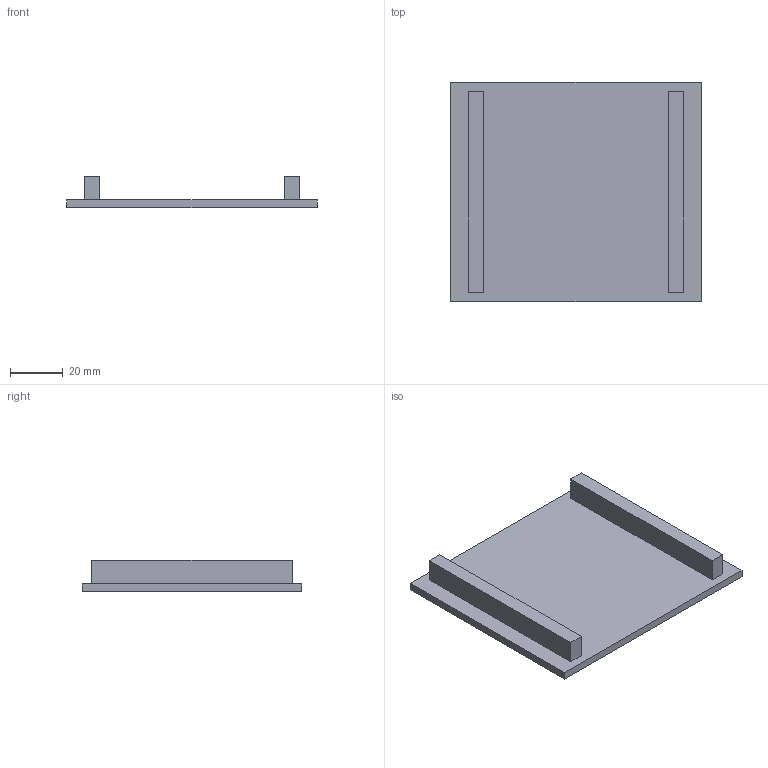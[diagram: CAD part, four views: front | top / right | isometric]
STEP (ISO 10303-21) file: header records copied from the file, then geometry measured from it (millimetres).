
FILE_DESCRIPTION(('Mechanical CAD reference from nasji.com'),'2;1');
FILE_NAME('NASJI.step','',(''),(''),'','NASJI distribution','');
FILE_SCHEMA(('AUTOMOTIVE_DESIGN { 1 0 10303 214 1 1 1 1 }'));
Length unit declared in the file: millimetre
Products named in the file (1): Open CASCADE STEP translator 7.8 34
Bounding box: 95 x 83.1 x 11.9 mm (x, y, z)
Volume: 31394.5 mm3; surface area: 19766.1 mm2
Topology: 1 solids, 1 shells, 16 faces, 36 edges, 24 vertices
Faces by surface type: plane 16
Entity records: 918 total; most frequent: CARTESIAN_POINT 149, DIRECTION 142, LINE 108, VECTOR 108, ORIENTED_EDGE 72, PCURVE 72, DEFINITIONAL_REPRESENTATION 72, EDGE_CURVE 36
